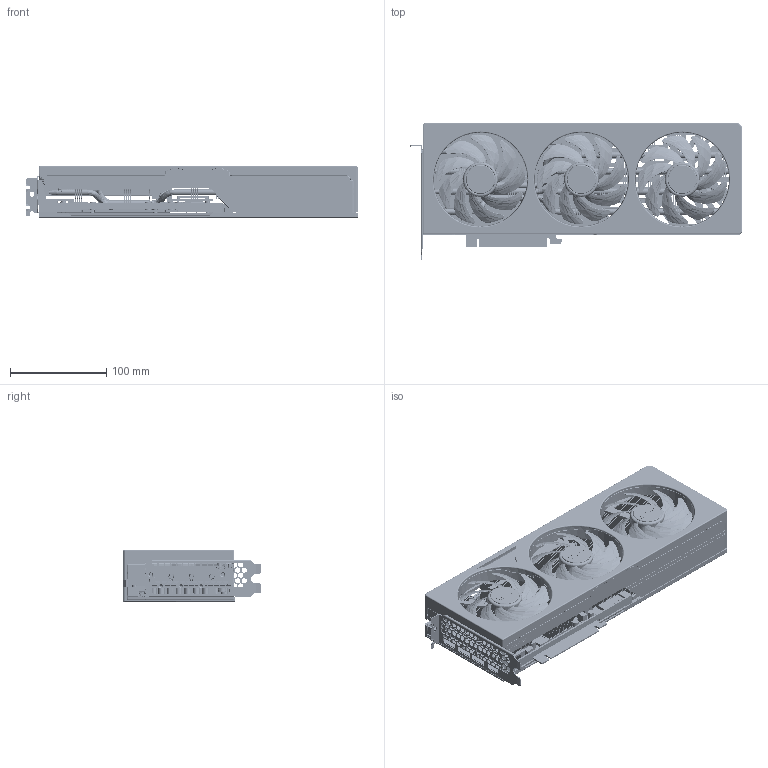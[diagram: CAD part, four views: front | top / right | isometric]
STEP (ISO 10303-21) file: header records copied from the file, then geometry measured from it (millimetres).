
FILE_DESCRIPTION((''),'2;1');
FILE_NAME('0000_F332_F333_ASM_ASM_1_ASM','2025-04-23T13:58:05',('Kate'),(''),'CREO PARAMETRIC BY PTC INC, 2021304','CREO PARAMETRIC BY PTC INC, 2021304','');
FILE_SCHEMA(('AUTOMOTIVE_DESIGN { 1 0 10303 214 1 1 1 1 }'));
Products named in the file (70): GB2031_PCB_1; POWER_16PIN_1; BRACKET_133D_REV01_211115_1; GB2031_PCB_ASM_ASM_1_ASM; PC010-1B0_VER01_1; D367_BASE_CU_1; D367_BASE_AL_MAIN_1; GREASE_1_1_1_1_1_2_1_1_1_1_1__4; NUT_M2_L5-04_1; PAD_14-2X23-6X2-25_1; PAD_14-2X54-5X2-25_1; PAD_7X14-6X2-25_1; D367_BASE_ASM_ASM_1_ASM; D367_HP_01_1; D367_HP_02_1; D367_HP_03_1; D367_HP_04_1; D367_HP_ASM_ASM_1_ASM; D367_FIN_01_1; D367_FIN_02_1; D367_FIN_03_1; D367_FIN_04_1; D367_FIN_05_1; D367_FIN_06_1; D367_FIN_07_1; D367_FIN_08_1; D367_FIN_09_1; D367_FIN_10_1; D367_FIN_11_1; D367_FIN_ASM_ASM_1_ASM; D367_SHEET_AL1100_01_1; STANDOFF01_M2-5_L5_1; PAD_83-5X6-5X2-25_1; D367_SUPPORT_ASM_01_ASM_1_ASM; D367_AL_EXTRUSION_GB2031_1; PAD_16X6X2-25_1; PAD_10X6X2-25_1; D367_SUPPORT_ASM_GB2031_ASM_1_ASM; D367_AL_EXTRUSION_SUPPORT_1; D367_SUPPORT_ASM_05_ASM_1_ASM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
Assembly tree (212 placements, depth 5):
  0000_F332_F333_ASM_ASM_1_ASM
    GB2031_PCB_ASM_ASM_1_ASM
      GB2031_PCB_1
      POWER_16PIN_1
      BRACKET_133D_REV01_211115_1
    PC010-1B0_VER01_1
    D367_MODULES_ASM_ASM_1_ASM
      D367_BASE_ASM_ASM_1_ASM
        D367_BASE_CU_1
        D367_BASE_AL_MAIN_1
        GREASE_1_1_1_1_1_2_1_1_1_1_1__4
        NUT_M2_L5-04_1  x4
        PAD_14-2X23-6X2-25_1  x2
        PAD_14-2X54-5X2-25_1
        PAD_7X14-6X2-25_1
      D367_HP_ASM_ASM_1_ASM
        D367_HP_01_1
        D367_HP_02_1
        D367_HP_03_1
        D367_HP_04_1
      D367_FIN_ASM_ASM_1_ASM
        D367_FIN_01_1  x4
        D367_FIN_02_1  x11
        D367_FIN_03_1  x4
        D367_FIN_04_1  x2
        D367_FIN_05_1  x7
        D367_FIN_06_1  x3
        D367_FIN_07_1  x5
        D367_FIN_08_1  x20
        D367_FIN_09_1  x6
        D367_FIN_10_1  x57
        D367_FIN_11_1  x5
      D367_SUPPORT_ASM_01_ASM_1_ASM
        D367_SHEET_AL1100_01_1
        STANDOFF01_M2-5_L5_1  x2
        PAD_83-5X6-5X2-25_1
      D367_SUPPORT_ASM_GB2031_ASM_1_ASM
        D367_AL_EXTRUSION_GB2031_1
        STANDOFF01_M2-5_L5_1  x2
        PAD_16X6X2-25_1  x2
        PAD_10X6X2-25_1
      D367_SUPPORT_ASM_05_ASM_1_ASM  x2
        D367_AL_EXTRUSION_SUPPORT_1
      D367_FAN_FRAME_ASM_ASM_1_ASM
        D367_FAN_FRAME_01_AL1100_1
        D367_FAN_FRAME_02_AL1100_1
        SCREW43_P_D4-2_M2_L4-2_1  x4
      13-11-1210003-1A_1  x6
      D367_DIECASTING_ASM_ASM_1_ASM
        F332-DC-0302_STP_1
        M2-5_SPRING_SCREW_2KG_ASM_ASM_1_ASM  x4
          M2-5_SPRING_SCREW_2KG_1
          M2-5_SPRING_2KG_1
    F332-1B0_COVER_ASM_ASM_1_ASM
      F332-1B0_GP_COVER_1
      F332-1B0_LED_ASM_ASM_1_ASM
        F332-1B0_LED_PCB_1
        F322_LED_LIGHT-GUIDE_1
        F332-1B0_LGB_1
        F332-1B0_NAMEPLATE_1
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Bounding box: 345.55 x 144.46 x 53.3 mm (x, y, z)
Volume: 610819.9 mm3; surface area: 1214246.7 mm2
Topology: 211 solids, 253 shells, 22931 faces, 67478 edges, 45363 vertices
Faces by surface type: plane 14054, cylinder 5128, bspline 1622, cone 1093, torus 643, revolution 190, sphere 102, extrusion 99
Entity records: 495435 total; most frequent: CARTESIAN_POINT 163717, ORIENTED_EDGE 63534, DIRECTION 55954, EDGE_CURVE 31767, VERTEX_POINT 20861, VECTOR 18762, LINE 18663, AXIS2_PLACEMENT_3D 18501
